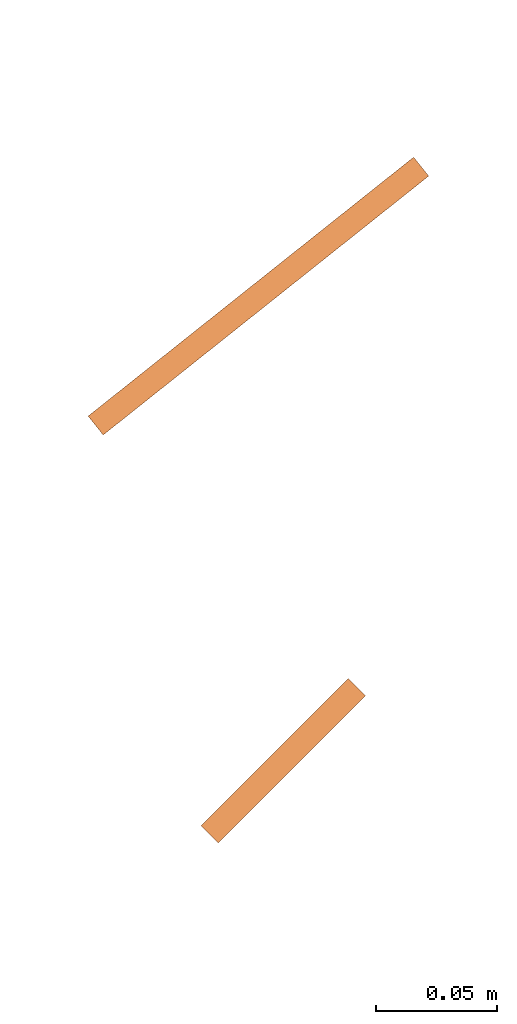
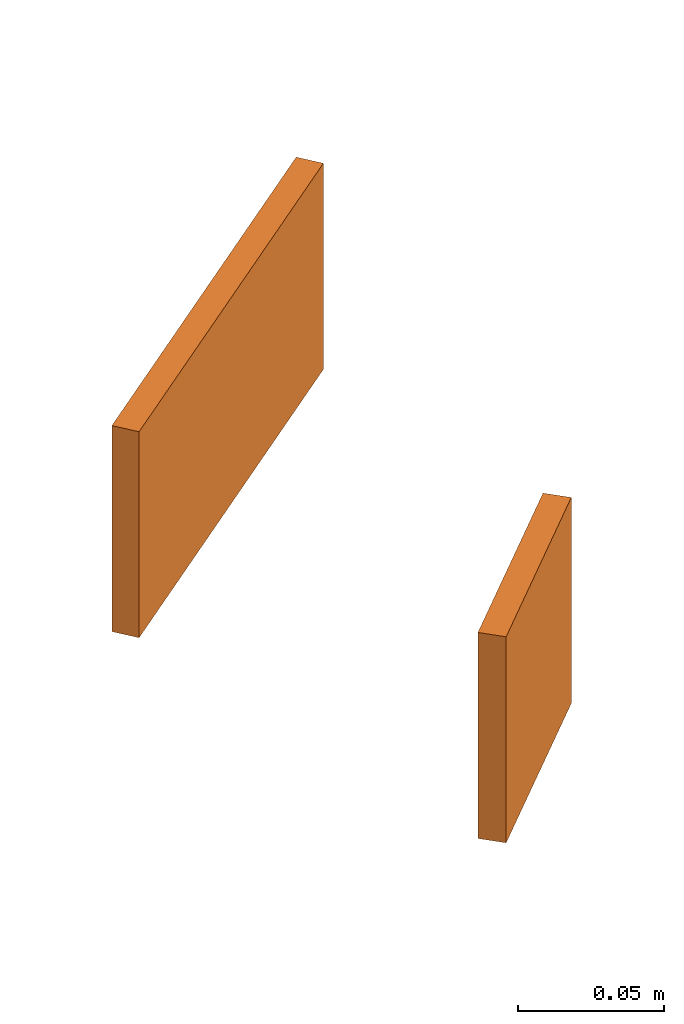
# One storey, part 4 of 9: 2 proxies.
"""IFC2X3 building model written with IfcOpenShell, lengths in millimetres."""

from ifc_helpers import new_model, entity, si_unit, converted_unit, derived_unit, direction, frame, origin, origin_2d_with_axis, place, context, subcontext, project, spatial, rectangle, extrude, source, transform, mapped, material, type_object, element, save


model = new_model("IFC2X3")

# Units and contexts
model_context = context("Model", 3, precision=0.01, world=frame((0.0, 4.29681676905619e-09, 0.0)), true_north=direction((4.01073788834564e-13, 1.0)))
plan_context = context("Plan", 3, precision=0.01, world=frame((0.0, 4.29681676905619e-09, 0.0)), true_north=direction((4.01073788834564e-13, 1.0)))
body_context = subcontext(model_context, "Body", "Model", "MODEL_VIEW")
ifc_project = project(units=[converted_unit("PLANEANGLEUNIT", "DEGREE", entity("IfcPositiveLengthMeasure", 0.0174532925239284), si_unit("PLANEANGLEUNIT", "RADIAN"), dimensions=[0, 0, 0, 0, 0, 0, 0]), si_unit("AREAUNIT", "SQUARE_METRE"), si_unit("LENGTHUNIT", "METRE", prefix="MILLI"), si_unit("MASSUNIT", "GRAM", prefix="KILO"), si_unit("POWERUNIT", "WATT"), si_unit("PRESSUREUNIT", "PASCAL", prefix="KILO"), si_unit("FORCEUNIT", "NEWTON", prefix="KILO"), si_unit("ELECTRICVOLTAGEUNIT", "VOLT"), si_unit("ELECTRICCURRENTUNIT", "AMPERE"), si_unit("THERMODYNAMICTEMPERATUREUNIT", "DEGREE_CELSIUS"), si_unit("TIMEUNIT", "SECOND"), si_unit("VOLUMEUNIT", "CUBIC_METRE"), derived_unit("LINEARVELOCITYUNIT", [(si_unit("LENGTHUNIT", "METRE"), 1), (si_unit("TIMEUNIT", "SECOND"), -1)]), derived_unit("VOLUMETRICFLOWRATEUNIT", [(si_unit("VOLUMEUNIT", "CUBIC_METRE"), 1), (si_unit("TIMEUNIT", "SECOND"), -1)]), derived_unit("THERMALTRANSMITTANCEUNIT", [(si_unit("POWERUNIT", "WATT"), 1), (si_unit("THERMODYNAMICTEMPERATUREUNIT", "KELVIN"), -1), (si_unit("AREAUNIT", "SQUARE_METRE"), -1)]), derived_unit("SOUNDPRESSUREUNIT", [(si_unit("PRESSUREUNIT", "PASCAL"), 1)])], contexts=[model_context, plan_context])

# Site, building, storey
site_placement = place(None, frame((0.0, -4.29681676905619e-09, 0.0), z_axis=(0.0, 0.0, 1.0), x_axis=(1.0, 0.0, 0.0)))
site = spatial("IfcSite", under=ifc_project, at=site_placement, Name="Default", CompositionType="ELEMENT")
building_placement = place(site_placement, frame((0.0, 4.29681676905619e-09, 0.0), z_axis=(0.0, 0.0, 1.0), x_axis=(1.0, 0.0, 0.0)))
building = spatial("IfcBuilding", under=site, at=building_placement, CompositionType="ELEMENT")
storey_placement = place(building_placement, frame((0.0, 0.0, 210900.0), z_axis=(0.0, 0.0, 1.0), x_axis=(1.0, 0.0, 0.0)))
storey = spatial("IfcBuildingStorey", under=building, at=storey_placement, Name="Nivå F", CompositionType="ELEMENT", Elevation=210900.0)

# Proxies
ifc_material = material(Name="<Unnamed>")
building_element_proxy_type_1 = type_object("IfcBuildingElementProxyType", Name="Bryter 1-polet m_boks:1066A", PredefinedType="NOTDEFINED", material=ifc_material)
shared_shape_1 = source(origin(), body_context, "Body", "SweptSolid", [
    extrude(rectangle(XDim=85.9999999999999, YDim=9.99999999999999, at=origin_2d_with_axis()), frame((0.0, 5.0, -43.0)), (0.0, 0.0, 1.0), 85.9999999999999),
])
proxy_1_placement = place(storey_placement, frame((728378.210531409, 437098.970688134, 1000.0), z_axis=(0.0, 0.0, 1.0), x_axis=(-0.707106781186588, -0.707106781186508, 0.0)))
element("IfcBuildingElementProxy", 1, at=proxy_1_placement, inside=storey, type_object=building_element_proxy_type_1, material=ifc_material, Name="Bryter 1-polet m_boks:1066A", ObjectType="Bryter 1-polet m_boks:1066A", context=body_context, shape_type="MappedRepresentation", body=[
    mapped(shared_shape_1, transform((0.0, 0.0, 0.0), scale=1.0)),
])
building_element_proxy_type_2 = type_object("IfcBuildingElementProxyType", Name="styrepanel_fancoil:smartpanal", PredefinedType="NOTDEFINED", material=ifc_material)
shared_shape_2 = source(origin(), body_context, "Body", "SweptSolid", [
    extrude(rectangle(XDim=172.0, YDim=9.99999999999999, at=origin_2d_with_axis()), frame((0.0, 5.0, -43.0)), (0.0, 0.0, 1.0), 85.9999999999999),
])
proxy_2_placement = place(storey_placement, frame((728374.603513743, 437283.656878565, 1000.0), z_axis=(0.0, 0.0, 1.0), x_axis=(0.782561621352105, 0.622573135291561, 0.0)))
element("IfcBuildingElementProxy", 2, at=proxy_2_placement, inside=storey, type_object=building_element_proxy_type_2, material=ifc_material, Name="styrepanel_fancoil:smartpanal", ObjectType="styrepanel_fancoil:smartpanal", context=body_context, shape_type="MappedRepresentation", body=[
    mapped(shared_shape_2, transform((0.0, 0.0, 0.0), scale=1.0)),
])

save(model, "model.ifc")
